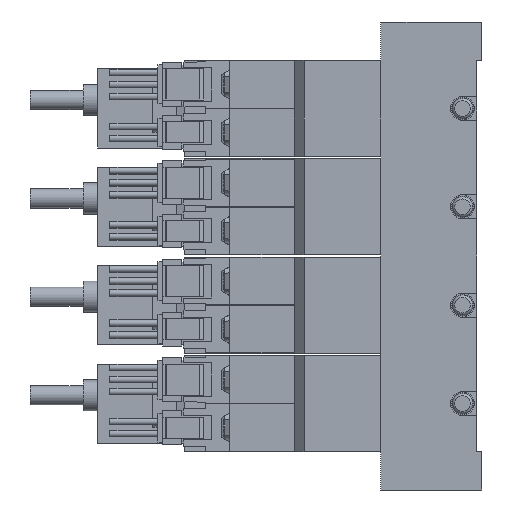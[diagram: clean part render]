
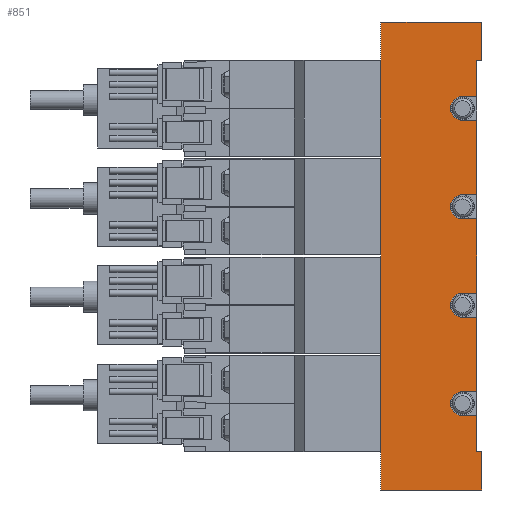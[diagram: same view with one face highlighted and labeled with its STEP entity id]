
A CAD part, left-side view. The second image highlights one B-rep face of the part: STEP entity #851.
In plain terms, the highlighted planar face has unit normal (-1, 0, 0) as drawn and (1, 0, 0) by its records, which use the part's own axes.
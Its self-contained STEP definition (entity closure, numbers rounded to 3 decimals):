
#851=ADVANCED_FACE('',(#1833),#1834,.F.);
#1833=FACE_OUTER_BOUND('',#2908,.T.);
#1834=PLANE('',#2909);
#2908=EDGE_LOOP('',(#6360,#6361,#6362,#6363,#6364,#6365,#6366,#6367,#6368,#6369,#6370,#6371,#6372,#6373,#6374,#6375,#6376,#6377,#6378,#6379,#6380,#6381,#6382,#6383));
#2909=AXIS2_PLACEMENT_3D('',#6384,#6385,#6386);
#6360=ORIENTED_EDGE('',*,*,#7785,.T.);
#6361=ORIENTED_EDGE('',*,*,#7769,.T.);
#6362=ORIENTED_EDGE('',*,*,#7788,.F.);
#6363=ORIENTED_EDGE('',*,*,#7789,.F.);
#6364=ORIENTED_EDGE('',*,*,#7745,.T.);
#6365=ORIENTED_EDGE('',*,*,#7708,.T.);
#6366=ORIENTED_EDGE('',*,*,#7790,.T.);
#6367=ORIENTED_EDGE('',*,*,#7725,.F.);
#6368=ORIENTED_EDGE('',*,*,#7783,.F.);
#6369=ORIENTED_EDGE('',*,*,#7754,.F.);
#6370=ORIENTED_EDGE('',*,*,#7791,.T.);
#6371=ORIENTED_EDGE('',*,*,#7792,.F.);
#6372=ORIENTED_EDGE('',*,*,#7793,.F.);
#6373=ORIENTED_EDGE('',*,*,#7794,.F.);
#6374=ORIENTED_EDGE('',*,*,#7795,.T.);
#6375=ORIENTED_EDGE('',*,*,#7750,.F.);
#6376=ORIENTED_EDGE('',*,*,#7796,.F.);
#6377=ORIENTED_EDGE('',*,*,#7797,.F.);
#6378=ORIENTED_EDGE('',*,*,#7798,.T.);
#6379=ORIENTED_EDGE('',*,*,#7734,.F.);
#6380=ORIENTED_EDGE('',*,*,#7799,.F.);
#6381=ORIENTED_EDGE('',*,*,#7800,.F.);
#6382=ORIENTED_EDGE('',*,*,#7801,.T.);
#6383=ORIENTED_EDGE('',*,*,#7768,.T.);
#6384=CARTESIAN_POINT('',(17.5,1.0,48.75));
#6385=DIRECTION('',(-1.0,0.0,0.0));
#6386=DIRECTION('',(0.0,0.0,1.0));
#7708=EDGE_CURVE('',#9513,#9510,#9514,.T.);
#7725=EDGE_CURVE('',#9546,#9547,#9548,.T.);
#7734=EDGE_CURVE('',#9564,#9565,#9566,.T.);
#7745=EDGE_CURVE('',#9584,#9513,#9585,.T.);
#7750=EDGE_CURVE('',#9593,#9594,#9595,.T.);
#7754=EDGE_CURVE('',#9600,#9601,#9602,.T.);
#7768=EDGE_CURVE('',#9618,#9627,#9629,.T.);
#7769=EDGE_CURVE('',#9630,#9631,#9632,.T.);
#7783=EDGE_CURVE('',#9601,#9546,#9655,.T.);
#7785=EDGE_CURVE('',#9627,#9630,#9658,.T.);
#7788=EDGE_CURVE('',#9662,#9631,#9663,.T.);
#7789=EDGE_CURVE('',#9584,#9662,#9664,.T.);
#7790=EDGE_CURVE('',#9510,#9547,#9665,.T.);
#7791=EDGE_CURVE('',#9600,#9666,#9667,.T.);
#7792=EDGE_CURVE('',#9668,#9666,#9669,.T.);
#7793=EDGE_CURVE('',#9670,#9668,#9671,.T.);
#7794=EDGE_CURVE('',#9672,#9670,#9673,.T.);
#7795=EDGE_CURVE('',#9672,#9594,#9674,.T.);
#7796=EDGE_CURVE('',#9675,#9593,#9676,.T.);
#7797=EDGE_CURVE('',#9677,#9675,#9678,.T.);
#7798=EDGE_CURVE('',#9677,#9565,#9679,.T.);
#7799=EDGE_CURVE('',#9680,#9564,#9681,.T.);
#7800=EDGE_CURVE('',#9682,#9680,#9683,.T.);
#7801=EDGE_CURVE('',#9682,#9618,#9684,.T.);
#9510=VERTEX_POINT('',#12586);
#9513=VERTEX_POINT('',#12590);
#9514=LINE('',#12591,#12592);
#9546=VERTEX_POINT('',#12633);
#9547=VERTEX_POINT('',#12634);
#9548=LINE('',#12635,#12636);
#9564=VERTEX_POINT('',#12656);
#9565=VERTEX_POINT('',#12657);
#9566=LINE('',#12658,#12659);
#9584=VERTEX_POINT('',#12680);
#9585=LINE('',#12681,#12682);
#9593=VERTEX_POINT('',#12692);
#9594=VERTEX_POINT('',#12693);
#9595=LINE('',#12694,#12695);
#9600=VERTEX_POINT('',#12703);
#9601=VERTEX_POINT('',#12704);
#9602=LINE('',#12705,#12706);
#9618=VERTEX_POINT('',#12726);
#9627=VERTEX_POINT('',#12739);
#9629=LINE('',#12742,#12743);
#9630=VERTEX_POINT('',#12744);
#9631=VERTEX_POINT('',#12745);
#9632=LINE('',#12746,#12747);
#9655=CIRCLE('',#12777,2.5);
#9658=LINE('',#12780,#12781);
#9662=VERTEX_POINT('',#12786);
#9663=LINE('',#12787,#12788);
#9664=LINE('',#12789,#12790);
#9665=LINE('',#12791,#12792);
#9666=VERTEX_POINT('',#12793);
#9667=LINE('',#12794,#12795);
#9668=VERTEX_POINT('',#12796);
#9669=LINE('',#12797,#12798);
#9670=VERTEX_POINT('',#12799);
#9671=CIRCLE('',#12800,2.5);
#9672=VERTEX_POINT('',#12801);
#9673=LINE('',#12802,#12803);
#9674=LINE('',#12804,#12805);
#9675=VERTEX_POINT('',#12806);
#9676=CIRCLE('',#12807,2.5);
#9677=VERTEX_POINT('',#12808);
#9678=LINE('',#12809,#12810);
#9679=LINE('',#12811,#12812);
#9680=VERTEX_POINT('',#12813);
#9681=CIRCLE('',#12814,2.5);
#9682=VERTEX_POINT('',#12815);
#9683=LINE('',#12816,#12817);
#9684=LINE('',#12818,#12819);
#12586=CARTESIAN_POINT('',(17.5,1.0,40.75));
#12590=CARTESIAN_POINT('',(17.5,0.0,40.75));
#12591=CARTESIAN_POINT('',(17.5,0.0,40.75));
#12592=VECTOR('',#14165,1.0);
#12633=CARTESIAN_POINT('',(17.5,4.0,33.25));
#12634=CARTESIAN_POINT('',(17.5,1.0,33.25));
#12635=CARTESIAN_POINT('',(17.5,1.0,33.25));
#12636=VECTOR('',#14196,1.0);
#12656=CARTESIAN_POINT('',(17.5,4.0,-28.25));
#12657=CARTESIAN_POINT('',(17.5,1.0,-28.25));
#12658=CARTESIAN_POINT('',(17.5,1.0,-28.25));
#12659=VECTOR('',#14213,1.0);
#12680=CARTESIAN_POINT('',(17.5,0.0,48.75));
#12681=CARTESIAN_POINT('',(17.5,0.0,48.75));
#12682=VECTOR('',#14238,1.0);
#12692=CARTESIAN_POINT('',(17.5,4.0,-7.75));
#12693=CARTESIAN_POINT('',(17.5,1.0,-7.75));
#12694=CARTESIAN_POINT('',(17.5,1.0,-7.75));
#12695=VECTOR('',#14247,1.0);
#12703=CARTESIAN_POINT('',(17.5,1.0,28.25));
#12704=CARTESIAN_POINT('',(17.5,4.0,28.25));
#12705=CARTESIAN_POINT('',(17.5,1.0,28.25));
#12706=VECTOR('',#14251,1.0);
#12726=CARTESIAN_POINT('',(17.5,1.0,-40.75));
#12739=CARTESIAN_POINT('',(17.5,0.0,-40.75));
#12742=CARTESIAN_POINT('',(17.5,4.0,-40.75));
#12743=VECTOR('',#14273,1.0);
#12744=CARTESIAN_POINT('',(17.5,0.0,-48.75));
#12745=CARTESIAN_POINT('',(17.5,21.0,-48.75));
#12746=CARTESIAN_POINT('',(17.5,1.0,-48.75));
#12747=VECTOR('',#14274,1.0);
#12777=AXIS2_PLACEMENT_3D('',#14300,#14301,#14302);
#12780=CARTESIAN_POINT('',(17.5,0.0,-40.75));
#12781=VECTOR('',#14306,1.0);
#12786=CARTESIAN_POINT('',(17.5,21.0,48.75));
#12787=CARTESIAN_POINT('',(17.5,21.0,48.75));
#12788=VECTOR('',#14311,1.0);
#12789=CARTESIAN_POINT('',(17.5,1.0,48.75));
#12790=VECTOR('',#14312,1.0);
#12791=CARTESIAN_POINT('',(17.5,1.0,48.75));
#12792=VECTOR('',#14313,1.0);
#12793=CARTESIAN_POINT('',(17.5,1.0,12.75));
#12794=CARTESIAN_POINT('',(17.5,1.0,48.75));
#12795=VECTOR('',#14314,1.0);
#12796=CARTESIAN_POINT('',(17.5,4.0,12.75));
#12797=CARTESIAN_POINT('',(17.5,1.0,12.75));
#12798=VECTOR('',#14315,1.0);
#12799=CARTESIAN_POINT('',(17.5,4.0,7.75));
#12800=AXIS2_PLACEMENT_3D('',#14316,#14317,#14318);
#12801=CARTESIAN_POINT('',(17.5,1.0,7.75));
#12802=CARTESIAN_POINT('',(17.5,1.0,7.75));
#12803=VECTOR('',#14319,1.0);
#12804=CARTESIAN_POINT('',(17.5,1.0,48.75));
#12805=VECTOR('',#14320,1.0);
#12806=CARTESIAN_POINT('',(17.5,4.0,-12.75));
#12807=AXIS2_PLACEMENT_3D('',#14321,#14322,#14323);
#12808=CARTESIAN_POINT('',(17.5,1.0,-12.75));
#12809=CARTESIAN_POINT('',(17.5,1.0,-12.75));
#12810=VECTOR('',#14324,1.0);
#12811=CARTESIAN_POINT('',(17.5,1.0,48.75));
#12812=VECTOR('',#14325,1.0);
#12813=CARTESIAN_POINT('',(17.5,4.0,-33.25));
#12814=AXIS2_PLACEMENT_3D('',#14326,#14327,#14328);
#12815=CARTESIAN_POINT('',(17.5,1.0,-33.25));
#12816=CARTESIAN_POINT('',(17.5,1.0,-33.25));
#12817=VECTOR('',#14329,1.0);
#12818=CARTESIAN_POINT('',(17.5,1.0,48.75));
#12819=VECTOR('',#14330,1.0);
#14165=DIRECTION('',(0.0,1.0,0.0));
#14196=DIRECTION('',(0.0,-1.0,0.0));
#14213=DIRECTION('',(0.0,-1.0,0.0));
#14238=DIRECTION('',(0.0,0.0,-1.0));
#14247=DIRECTION('',(0.0,-1.0,0.0));
#14251=DIRECTION('',(0.0,1.0,0.0));
#14273=DIRECTION('',(0.0,-1.0,0.0));
#14274=DIRECTION('',(0.0,1.0,0.0));
#14300=CARTESIAN_POINT('',(17.5,4.0,30.75));
#14301=DIRECTION('',(1.0,0.0,-0.0));
#14302=DIRECTION('',(0.0,0.0,1.0));
#14306=DIRECTION('',(0.0,0.0,-1.0));
#14311=DIRECTION('',(0.0,0.0,-1.0));
#14312=DIRECTION('',(0.0,1.0,0.0));
#14313=DIRECTION('',(0.0,0.0,-1.0));
#14314=DIRECTION('',(0.0,0.0,-1.0));
#14315=DIRECTION('',(0.0,-1.0,0.0));
#14316=CARTESIAN_POINT('',(17.5,4.0,10.25));
#14317=DIRECTION('',(1.0,0.0,-0.0));
#14318=DIRECTION('',(0.0,0.0,1.0));
#14319=DIRECTION('',(0.0,1.0,0.0));
#14320=DIRECTION('',(0.0,0.0,-1.0));
#14321=CARTESIAN_POINT('',(17.5,4.0,-10.25));
#14322=DIRECTION('',(1.0,0.0,-0.0));
#14323=DIRECTION('',(0.0,0.0,1.0));
#14324=DIRECTION('',(0.0,1.0,0.0));
#14325=DIRECTION('',(0.0,0.0,-1.0));
#14326=CARTESIAN_POINT('',(17.5,4.0,-30.75));
#14327=DIRECTION('',(1.0,0.0,-0.0));
#14328=DIRECTION('',(0.0,0.0,1.0));
#14329=DIRECTION('',(0.0,1.0,0.0));
#14330=DIRECTION('',(0.0,0.0,-1.0));
